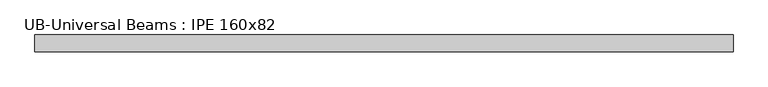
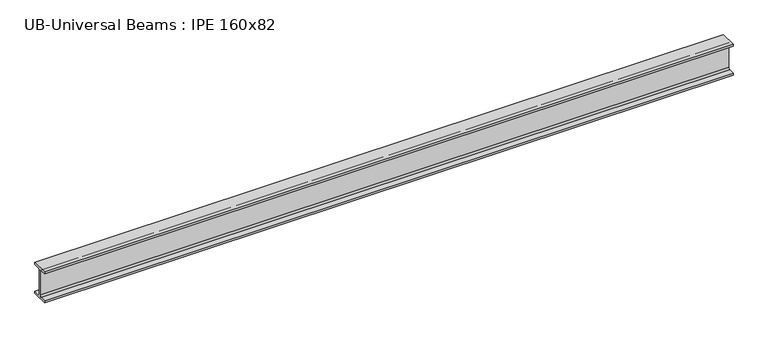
"""IFC4 building model written with IfcOpenShell, lengths in millimetres: beam geometry, UB-Universal Beams : IPE 160x82."""

from ifc_helpers import new_model, si_unit, point, frame, frame_2d, origin, place, context, project, spatial, polyline, circle_curve, trimmed, segment, composite_curve, outline, extrude, source, transform, mapped, element, save


def ub_universal_beams_ipe_160x82_ba852ef6(model_context):
    return source(origin(), model_context, "Body", "SweptSolid", [
        extrude(outline(composite_curve([segment(polyline([(41.0, -69.8), (41.0, -80.0), (-41.0, -80.0), (-41.0, -69.8), (-11.9, -69.8)]), True, "CONTINUOUS"), segment(trimmed(circle_curve(frame_2d((-11.9, -60.9)), 8.9), [point((-11.9, -69.8))], [point((-3.0, -60.9))], True, "CARTESIAN"), True, "CONTINUOUS"), segment(polyline([(-3.0, -60.9), (-3.0, 60.9)]), True, "CONTINUOUS"), segment(trimmed(circle_curve(frame_2d((-11.9, 60.9)), 8.9), [point((-3.0, 60.9))], [point((-11.9, 69.8))], True, "CARTESIAN"), True, "CONTINUOUS"), segment(polyline([(-11.9, 69.8), (-41.0, 69.8), (-41.0, 80.0), (41.0, 80.0), (41.0, 69.8), (11.9, 69.8)]), True, "CONTINUOUS"), segment(trimmed(circle_curve(frame_2d((11.9, 60.9)), 8.9), [point((11.9, 69.8))], [point((3.0, 60.9))], True, "CARTESIAN"), True, "CONTINUOUS"), segment(polyline([(3.0, 60.9), (3.0, -60.9)]), True, "CONTINUOUS"), segment(trimmed(circle_curve(frame_2d((11.9, -60.9)), 8.9), [point((3.0, -60.9))], [point((11.9, -69.8))], True, "CARTESIAN"), True, "CONTINUOUS"), segment(polyline([(11.9, -69.8), (41.0, -69.8)]), True, "CONTINUOUS")], self_intersect=False)), frame((-1647.8, 0.0, 0.0), z_axis=(1.0, 0.0, 0.0), x_axis=(0.0, 1.0, 0.0)), (0.0, 0.0, 1.0), 3390.3),
    ])


if __name__ == "__main__":
    model = new_model("IFC4")
    model_context = context("Model", 3, world=origin())
    ifc_project = project(units=[si_unit("LENGTHUNIT", "METRE", prefix="MILLI")], contexts=[model_context])
    site = spatial("IfcSite", under=ifc_project)
    building = spatial("IfcBuilding", under=site)
    placement = place(None, origin())
    ub_universal_beams_ipe_160x82_shape = ub_universal_beams_ipe_160x82_ba852ef6(model_context)
    element("IfcBeam", 1, ObjectType="UB-Universal Beams : IPE 160x82", at=placement, inside=building, context=model_context, shape_type="MappedRepresentation", body=[
        mapped(ub_universal_beams_ipe_160x82_shape, transform((0.0, 0.0, 0.0), x_axis=(1.0, 0.0, 0.0), y_axis=(0.0, 1.0, 0.0), z_axis=(0.0, 0.0, 1.0))),
    ])
    save(model, "model.ifc")
